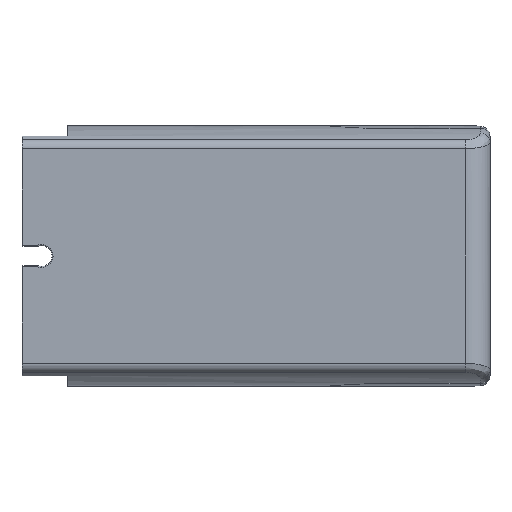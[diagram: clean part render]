
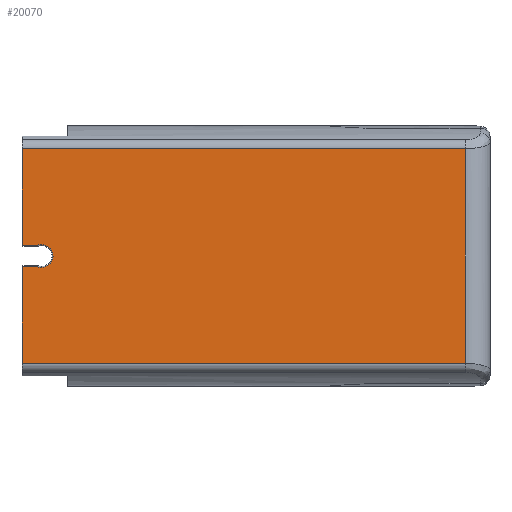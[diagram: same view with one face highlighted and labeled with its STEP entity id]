
A CAD part, front view. The second image highlights one B-rep face of the part: STEP entity #20070.
In plain terms, the highlighted planar face has unit normal (0, -1, 0).
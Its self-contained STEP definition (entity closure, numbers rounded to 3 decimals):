
#40 = ORIENTED_EDGE ( 'NONE', *, *, #31814, .T. ) ;
#170 = LINE ( 'NONE', #17221, #26167 ) ;
#403 = CIRCLE ( 'NONE', #26657, 2.3 ) ;
#1484 = VERTEX_POINT ( 'NONE', #10859 ) ;
#2157 = FACE_OUTER_BOUND ( 'NONE', #6599, .T. ) ;
#2553 = CARTESIAN_POINT ( 'NONE',  ( 2.5, -4.5, -20.5 ) ) ;
#2934 = VECTOR ( 'NONE', #12594, 1000. ) ;
#3839 = AXIS2_PLACEMENT_3D ( 'NONE', #13008, #13004, #12972 ) ;
#4554 = VECTOR ( 'NONE', #30692, 1000. ) ;
#4851 = VERTEX_POINT ( 'NONE', #11005 ) ;
#6104 = ORIENTED_EDGE ( 'NONE', *, *, #20060, .T. ) ;
#6525 = VECTOR ( 'NONE', #23408, 1000. ) ;
#6599 = EDGE_LOOP ( 'NONE', ( #40, #14507, #8497, #6104, #16392, #7552, #30082, #24465, #26842, #22392 ) ) ;
#7283 = LINE ( 'NONE', #23074, #6525 ) ;
#7552 = ORIENTED_EDGE ( 'NONE', *, *, #23495, .T. ) ;
#8497 = ORIENTED_EDGE ( 'NONE', *, *, #30105, .T. ) ;
#9191 = EDGE_CURVE ( 'NONE', #4851, #27732, #403, .T. ) ;
#9711 = DIRECTION ( 'NONE',  ( 0., 0., 1. ) ) ;
#9748 = DIRECTION ( 'NONE',  ( 0., 1., 0. ) ) ;
#9794 = CARTESIAN_POINT ( 'NONE',  ( 2.5, -4.5, -22.8 ) ) ;
#10172 = VERTEX_POINT ( 'NONE', #18923 ) ;
#10244 = CARTESIAN_POINT ( 'NONE',  ( -1.5, -4.5, -20.65 ) ) ;
#10827 = CARTESIAN_POINT ( 'NONE',  ( 2.5, -4.5, -22.8 ) ) ;
#10859 = CARTESIAN_POINT ( 'NONE',  ( 2.5, -4.5, -25.1 ) ) ;
#11005 = CARTESIAN_POINT ( 'NONE',  ( 1.683, -4.5, -20.65 ) ) ;
#11449 = DIRECTION ( 'NONE',  ( 1., 0., 0. ) ) ;
#11617 = DIRECTION ( 'NONE',  ( 0., 0., 1. ) ) ;
#11628 = DIRECTION ( 'NONE',  ( 0., 1., 0. ) ) ;
#11660 = CARTESIAN_POINT ( 'NONE',  ( 93.5, -4.5, 0.177 ) ) ;
#11852 = CARTESIAN_POINT ( 'NONE',  ( 93.5, -4.5, -20.65 ) ) ;
#11948 = CARTESIAN_POINT ( 'NONE',  ( 93.5, -4.5, -1.02 ) ) ;
#12473 = PLANE ( 'NONE',  #23204 ) ;
#12594 = DIRECTION ( 'NONE',  ( -1., 0., 0. ) ) ;
#12972 = DIRECTION ( 'NONE',  ( 0., 0., 1. ) ) ;
#13004 = DIRECTION ( 'NONE',  ( 0., 1., 0. ) ) ;
#13008 = CARTESIAN_POINT ( 'NONE',  ( 2.5, -4.5, -22.8 ) ) ;
#13609 = CIRCLE ( 'NONE', #22440, 2.3 ) ;
#13698 = LINE ( 'NONE', #11852, #26340 ) ;
#13790 = VECTOR ( 'NONE', #27783, 1000. ) ;
#14507 = ORIENTED_EDGE ( 'NONE', *, *, #30234, .T. ) ;
#14874 = DIRECTION ( 'NONE',  ( 0., 0., -1. ) ) ;
#15733 = CARTESIAN_POINT ( 'NONE',  ( 88.5, -4.5, -1.02 ) ) ;
#16392 = ORIENTED_EDGE ( 'NONE', *, *, #17338, .T. ) ;
#16788 = VERTEX_POINT ( 'NONE', #22238 ) ;
#16853 = VERTEX_POINT ( 'NONE', #18400 ) ;
#17221 = CARTESIAN_POINT ( 'NONE',  ( -1.5, -4.5, 0.177 ) ) ;
#17338 = EDGE_CURVE ( 'NONE', #16788, #20167, #23830, .T. ) ;
#17699 = VECTOR ( 'NONE', #22851, 1000. ) ;
#18400 = CARTESIAN_POINT ( 'NONE',  ( -1.5, -4.5, -44.58 ) ) ;
#18475 = LINE ( 'NONE', #22149, #17699 ) ;
#18923 = CARTESIAN_POINT ( 'NONE',  ( -1.5, -4.5, -24.95 ) ) ;
#19886 = CARTESIAN_POINT ( 'NONE',  ( 1.683, -4.5, -24.95 ) ) ;
#20060 = EDGE_CURVE ( 'NONE', #22889, #16788, #28989, .T. ) ;
#20070 = ADVANCED_FACE ( 'NONE', ( #2157 ), #12473, .F. ) ;
#20167 = VERTEX_POINT ( 'NONE', #10244 ) ;
#20373 = CARTESIAN_POINT ( 'NONE',  ( 88.5, -4.5, -44.58 ) ) ;
#22149 = CARTESIAN_POINT ( 'NONE',  ( 93.5, -4.5, -44.58 ) ) ;
#22238 = CARTESIAN_POINT ( 'NONE',  ( -1.5, -4.5, -1.02 ) ) ;
#22258 = EDGE_CURVE ( 'NONE', #24365, #10172, #7283, .T. ) ;
#22392 = ORIENTED_EDGE ( 'NONE', *, *, #22258, .T. ) ;
#22440 = AXIS2_PLACEMENT_3D ( 'NONE', #10827, #24028, #23874 ) ;
#22851 = DIRECTION ( 'NONE',  ( 1., 0., 0. ) ) ;
#22889 = VERTEX_POINT ( 'NONE', #15733 ) ;
#23074 = CARTESIAN_POINT ( 'NONE',  ( 93.5, -4.5, -24.95 ) ) ;
#23204 = AXIS2_PLACEMENT_3D ( 'NONE', #11660, #11628, #11617 ) ;
#23408 = DIRECTION ( 'NONE',  ( -1., 0., 0. ) ) ;
#23495 = EDGE_CURVE ( 'NONE', #20167, #4851, #13698, .T. ) ;
#23830 = LINE ( 'NONE', #30776, #4554 ) ;
#23874 = DIRECTION ( 'NONE',  ( 0., 0., 1. ) ) ;
#24028 = DIRECTION ( 'NONE',  ( 0., 1., 0. ) ) ;
#24365 = VERTEX_POINT ( 'NONE', #19886 ) ;
#24465 = ORIENTED_EDGE ( 'NONE', *, *, #27123, .T. ) ;
#25437 = EDGE_CURVE ( 'NONE', #1484, #24365, #30529, .T. ) ;
#26167 = VECTOR ( 'NONE', #14874, 1000. ) ;
#26340 = VECTOR ( 'NONE', #11449, 1000. ) ;
#26427 = LINE ( 'NONE', #28851, #13790 ) ;
#26657 = AXIS2_PLACEMENT_3D ( 'NONE', #9794, #9748, #9711 ) ;
#26842 = ORIENTED_EDGE ( 'NONE', *, *, #25437, .T. ) ;
#27123 = EDGE_CURVE ( 'NONE', #27732, #1484, #13609, .T. ) ;
#27732 = VERTEX_POINT ( 'NONE', #2553 ) ;
#27783 = DIRECTION ( 'NONE',  ( 0., 0., 1. ) ) ;
#28851 = CARTESIAN_POINT ( 'NONE',  ( 88.5, -4.5, -49.2 ) ) ;
#28989 = LINE ( 'NONE', #11948, #2934 ) ;
#29165 = VERTEX_POINT ( 'NONE', #20373 ) ;
#30082 = ORIENTED_EDGE ( 'NONE', *, *, #9191, .T. ) ;
#30105 = EDGE_CURVE ( 'NONE', #29165, #22889, #26427, .T. ) ;
#30234 = EDGE_CURVE ( 'NONE', #16853, #29165, #18475, .T. ) ;
#30529 = CIRCLE ( 'NONE', #3839, 2.3 ) ;
#30692 = DIRECTION ( 'NONE',  ( 0., 0., -1. ) ) ;
#30776 = CARTESIAN_POINT ( 'NONE',  ( -1.5, -4.5, 0.177 ) ) ;
#31814 = EDGE_CURVE ( 'NONE', #10172, #16853, #170, .T. ) ;
